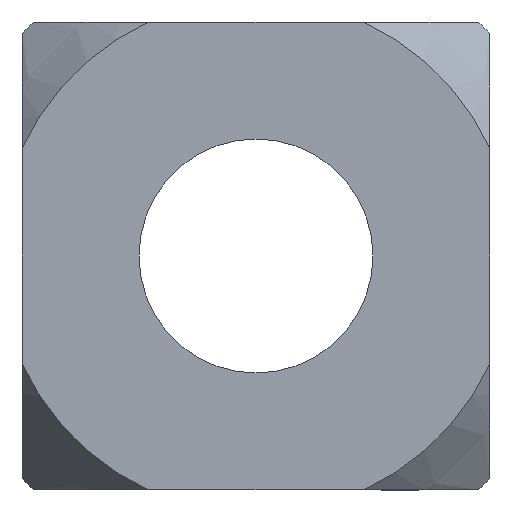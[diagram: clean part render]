
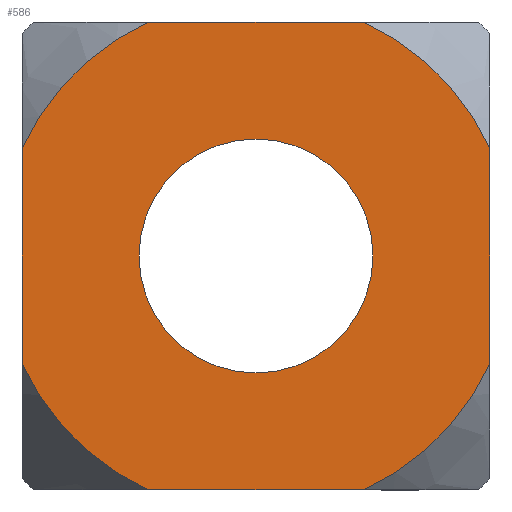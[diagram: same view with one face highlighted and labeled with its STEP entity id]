
A CAD part, front view. The second image highlights one B-rep face of the part: STEP entity #586.
In plain terms, the highlighted planar face has unit normal (0, -1, 0).
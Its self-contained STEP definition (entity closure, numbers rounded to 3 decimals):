
#24 = DIRECTION ( 'NONE',  ( 0., 1., 0. ) ) ;
#29 = EDGE_CURVE ( 'NONE', #428, #967, #73, .T. ) ;
#35 = CARTESIAN_POINT ( 'NONE',  ( -5., 0., 2.291 ) ) ;
#43 = CARTESIAN_POINT ( 'NONE',  ( 0., 0., 0. ) ) ;
#73 = CIRCLE ( 'NONE', #199, 2.5 ) ;
#94 = DIRECTION ( 'NONE',  ( 0., 1., 0. ) ) ;
#124 = ORIENTED_EDGE ( 'NONE', *, *, #195, .T. ) ;
#139 = CARTESIAN_POINT ( 'NONE',  ( 0., 0., 5. ) ) ;
#143 = DIRECTION ( 'NONE',  ( 0., 0., -1. ) ) ;
#170 = CARTESIAN_POINT ( 'NONE',  ( 0., 0., -2.5 ) ) ;
#189 = VERTEX_POINT ( 'NONE', #245 ) ;
#192 = ORIENTED_EDGE ( 'NONE', *, *, #309, .F. ) ;
#195 = EDGE_CURVE ( 'NONE', #518, #654, #1189, .T. ) ;
#199 = AXIS2_PLACEMENT_3D ( 'NONE', #895, #352, #989 ) ;
#217 = EDGE_CURVE ( 'NONE', #676, #785, #1146, .T. ) ;
#219 = VERTEX_POINT ( 'NONE', #900 ) ;
#229 = EDGE_CURVE ( 'NONE', #500, #189, #1154, .T. ) ;
#244 = ORIENTED_EDGE ( 'NONE', *, *, #229, .T. ) ;
#245 = CARTESIAN_POINT ( 'NONE',  ( 5., 0., -2.291 ) ) ;
#250 = DIRECTION ( 'NONE',  ( 1., 0., 0. ) ) ;
#260 = DIRECTION ( 'NONE',  ( 0., -1., 0. ) ) ;
#266 = EDGE_CURVE ( 'NONE', #422, #219, #1069, .T. ) ;
#304 = EDGE_CURVE ( 'NONE', #967, #428, #1006, .T. ) ;
#309 = EDGE_CURVE ( 'NONE', #518, #785, #1049, .T. ) ;
#312 = DIRECTION ( 'NONE',  ( 0., -1., 0. ) ) ;
#314 = EDGE_CURVE ( 'NONE', #500, #654, #1004, .T. ) ;
#316 = EDGE_CURVE ( 'NONE', #422, #189, #982, .T. ) ;
#320 = EDGE_LOOP ( 'NONE', ( #998, #427 ) ) ;
#321 = ORIENTED_EDGE ( 'NONE', *, *, #330, .F. ) ;
#330 = EDGE_CURVE ( 'NONE', #676, #219, #960, .T. ) ;
#352 = DIRECTION ( 'NONE',  ( 0., 1., 0. ) ) ;
#401 = CARTESIAN_POINT ( 'NONE',  ( 5., 0., 0. ) ) ;
#422 = VERTEX_POINT ( 'NONE', #723 ) ;
#427 = ORIENTED_EDGE ( 'NONE', *, *, #29, .T. ) ;
#428 = VERTEX_POINT ( 'NONE', #170 ) ;
#459 = DIRECTION ( 'NONE',  ( 0., -1., 0. ) ) ;
#468 = ORIENTED_EDGE ( 'NONE', *, *, #314, .F. ) ;
#500 = VERTEX_POINT ( 'NONE', #899 ) ;
#518 = VERTEX_POINT ( 'NONE', #557 ) ;
#523 = ORIENTED_EDGE ( 'NONE', *, *, #266, .T. ) ;
#530 = PLANE ( 'NONE',  #970 ) ;
#557 = CARTESIAN_POINT ( 'NONE',  ( -5., 0., -2.291 ) ) ;
#586 = ADVANCED_FACE ( 'NONE', ( #848, #834 ), #530, .F. ) ;
#597 = DIRECTION ( 'NONE',  ( 0., 0., 1. ) ) ;
#615 = CARTESIAN_POINT ( 'NONE',  ( 0., 0., 0. ) ) ;
#617 = CARTESIAN_POINT ( 'NONE',  ( -2.291, 0., 5. ) ) ;
#654 = VERTEX_POINT ( 'NONE', #966 ) ;
#667 = CARTESIAN_POINT ( 'NONE',  ( 0., 0., 0. ) ) ;
#676 = VERTEX_POINT ( 'NONE', #617 ) ;
#688 = DIRECTION ( 'NONE',  ( 0., 0., 1. ) ) ;
#702 = DIRECTION ( 'NONE',  ( 0., -1., 0. ) ) ;
#723 = CARTESIAN_POINT ( 'NONE',  ( 5., 0., 2.291 ) ) ;
#744 = DIRECTION ( 'NONE',  ( 0., 0., 1. ) ) ;
#765 = ORIENTED_EDGE ( 'NONE', *, *, #217, .T. ) ;
#785 = VERTEX_POINT ( 'NONE', #35 ) ;
#792 = DIRECTION ( 'NONE',  ( 0., 0., -1. ) ) ;
#816 = CARTESIAN_POINT ( 'NONE',  ( 0., 0., 0. ) ) ;
#822 = ORIENTED_EDGE ( 'NONE', *, *, #316, .F. ) ;
#834 = FACE_OUTER_BOUND ( 'NONE', #957, .T. ) ;
#848 = FACE_BOUND ( 'NONE', #320, .T. ) ;
#850 = CARTESIAN_POINT ( 'NONE',  ( 0., 0., -5. ) ) ;
#858 = CARTESIAN_POINT ( 'NONE',  ( 0., 0., 0. ) ) ;
#895 = CARTESIAN_POINT ( 'NONE',  ( 0., 0., 0. ) ) ;
#899 = CARTESIAN_POINT ( 'NONE',  ( 2.291, 0., -5. ) ) ;
#900 = CARTESIAN_POINT ( 'NONE',  ( 2.291, 0., 5. ) ) ;
#906 = DIRECTION ( 'NONE',  ( 0., 0., -1. ) ) ;
#935 = DIRECTION ( 'NONE',  ( -1., 0., 0. ) ) ;
#947 = DIRECTION ( 'NONE',  ( 0., 0., -1. ) ) ;
#951 = VECTOR ( 'NONE', #250, 1000. ) ;
#957 = EDGE_LOOP ( 'NONE', ( #192, #124, #468, #244, #822, #523, #321, #765 ) ) ;
#960 = LINE ( 'NONE', #139, #951 ) ;
#964 = VECTOR ( 'NONE', #792, 1000. ) ;
#966 = CARTESIAN_POINT ( 'NONE',  ( -2.291, 0., -5. ) ) ;
#967 = VERTEX_POINT ( 'NONE', #1174 ) ;
#970 = AXIS2_PLACEMENT_3D ( 'NONE', #615, #24, #688 ) ;
#980 = VECTOR ( 'NONE', #935, 1000. ) ;
#982 = LINE ( 'NONE', #401, #964 ) ;
#989 = DIRECTION ( 'NONE',  ( 0., 0., 1. ) ) ;
#994 = CARTESIAN_POINT ( 'NONE',  ( 0., 0., 0. ) ) ;
#998 = ORIENTED_EDGE ( 'NONE', *, *, #304, .T. ) ;
#1000 = VECTOR ( 'NONE', #597, 1000. ) ;
#1004 = LINE ( 'NONE', #850, #980 ) ;
#1006 = CIRCLE ( 'NONE', #1096, 2.5 ) ;
#1049 = LINE ( 'NONE', #1125, #1000 ) ;
#1069 = CIRCLE ( 'NONE', #1119, 5.5 ) ;
#1088 = DIRECTION ( 'NONE',  ( 0., 0., -1. ) ) ;
#1096 = AXIS2_PLACEMENT_3D ( 'NONE', #667, #94, #744 ) ;
#1119 = AXIS2_PLACEMENT_3D ( 'NONE', #858, #312, #947 ) ;
#1125 = CARTESIAN_POINT ( 'NONE',  ( -5., 0., 0. ) ) ;
#1144 = AXIS2_PLACEMENT_3D ( 'NONE', #994, #459, #1088 ) ;
#1146 = CIRCLE ( 'NONE', #1144, 5.5 ) ;
#1148 = AXIS2_PLACEMENT_3D ( 'NONE', #816, #260, #906 ) ;
#1149 = AXIS2_PLACEMENT_3D ( 'NONE', #43, #702, #143 ) ;
#1154 = CIRCLE ( 'NONE', #1148, 5.5 ) ;
#1174 = CARTESIAN_POINT ( 'NONE',  ( 0., 0., 2.5 ) ) ;
#1189 = CIRCLE ( 'NONE', #1149, 5.5 ) ;
